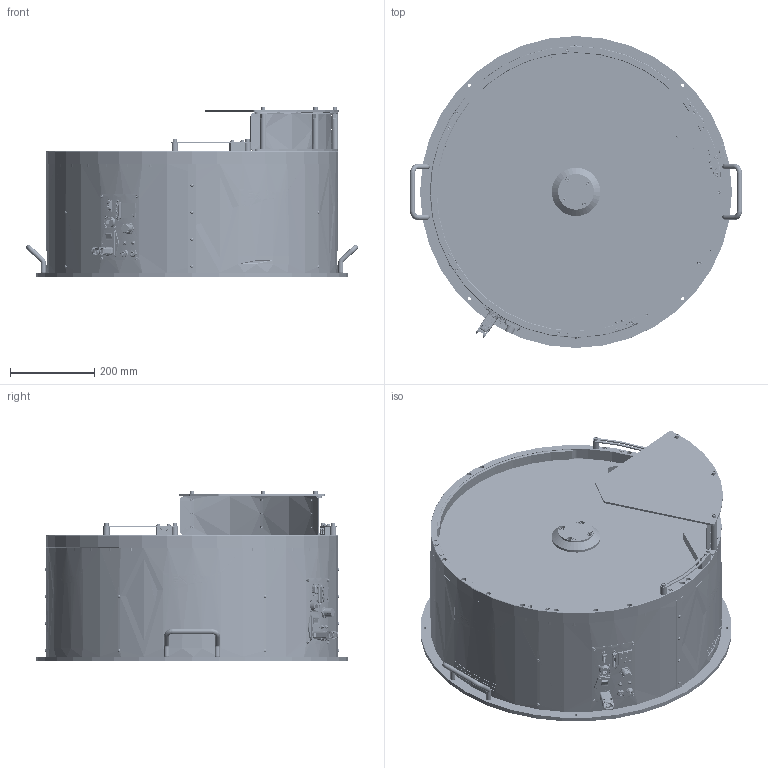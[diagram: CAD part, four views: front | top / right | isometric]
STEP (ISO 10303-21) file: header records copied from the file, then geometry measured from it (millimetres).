
FILE_DESCRIPTION (( 'STEP AP214' ), '1' );
FILE_NAME ('GM000216_FB650CC V2.2.STEP', '2023-09-19T06:51:15', ( '' ), ( '' ), 'SwSTEP 2.0', 'SolidWorks 2022', '' );
FILE_SCHEMA (( 'AUTOMOTIVE_DESIGN' ));
Length unit declared in the file: millimetre
Products named in the file (87): Copia di CE000327^CE000327; CE000013; PD001061; CM000024; PD005830; CM000166; PD001102; PD006076; CM000051; PD000043; CM000099; CE000419; CM000008_002; CM000035; CM000686; CM000008_005; CM000170; CE000327; CM000027; PD000032; PD006078; Copia di 39-01-2045^CE000326; Copia di Connettore te 2 poli - Copia^CE000463; PD005831; Copia di connector_a-ds_25_pp-f^CE000463; PD001119; PD000709; CM000021; CM000031; PD006075; CE000007; CM000015; CM000008_004; CM001243; PD006073; Copia di 43025-1600^CE000463; PD001426; PD006074; CM000686_001; CM000037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
Assembly tree (202 placements, depth 3):
  GM000216_FB650CC V2.2
    CM000032  x4
    CM000048  x16
    CM000031  x9
    CM000050  x3
    CM000170  x6
    CM000166  x8
    CM000642  x4
    CM000035  x4
    CM000027  x4
    CM000086  x5
    CM000051  x4
    CM000025  x4
    CM000043  x2
    CM000026  x10
    CM000024  x10
    CM000006  x4
    CM000091
    CM000037  x3
    CM000021  x3
    CM000039  x3
    CM001243  x2
    CM000047  x10
    CM000015  x2
      CM000015_001
      CM000015_002
    CM000099
    CE000327
      Copia di CE000327^CE000327
      Copia di 39-01-2025^CE000327
    CE000326
      Copia di Led RDY_FLT^CE000326
      Copia di 39-01-2045^CE000326
    CE000461
      Copia di CE000325^CE000461
      Copia di 43025-0600^CE000461
      Copia di Guaina^CE000461
    CE000463
      Copia di connector_a-ds_25_pp-f^CE000463
      Copia di Connettore te 2 poli - Copia^CE000463
      Copia di 39-01-2025^CE000463
      Copia di 43025-1600^CE000463
      Copia di Guaina^CE000463
    PD001096
    CM000001  x2
    PD006078
    PD001440  x6
    PD006077
    PD006073  x2
    PD001657
    PD000709
    PD000032
    CE000078
    PD001102
    PD001103
    PD001061
    PD000043  x4
    PD001121  x2
    PD001119  x2
    PD001425
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Bounding box: 787.87 x 740 x 402.5 mm (x, y, z)
Volume: 10701107 mm3; surface area: 4380336.5 mm2
Topology: 206 solids, 225 shells, 14993 faces, 38637 edges, 24589 vertices
Faces by surface type: plane 7012, cylinder 3890, bspline 1850, cone 1592, torus 586, sphere 63
Entity records: 602659 total; most frequent: CARTESIAN_POINT 263676, ORIENTED_EDGE 63774, DIRECTION 51021, EDGE_CURVE 32089, VERTEX_POINT 20921, AXIS2_PLACEMENT_3D 18078, VECTOR 14865, LINE 14865
